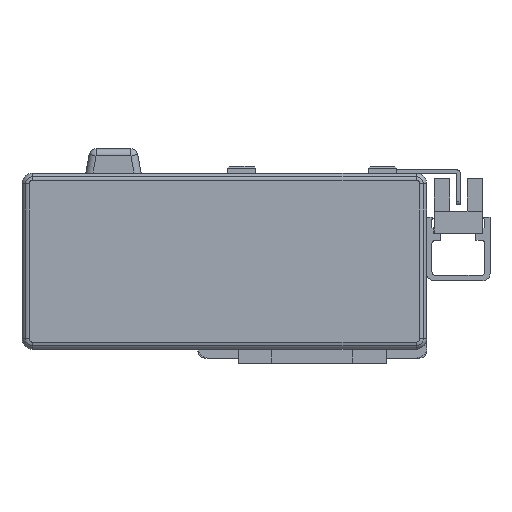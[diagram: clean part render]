
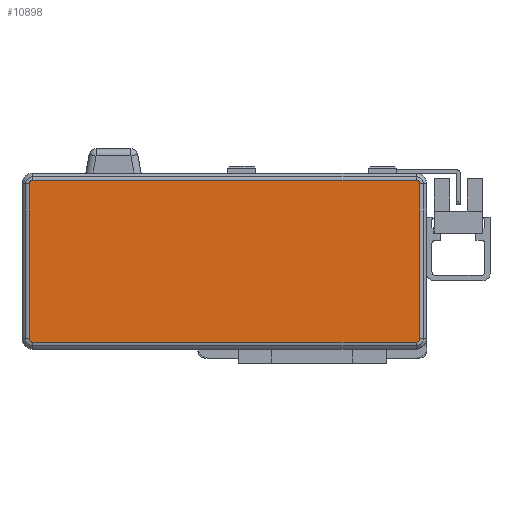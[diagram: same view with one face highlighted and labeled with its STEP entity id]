
A CAD part, left-side view. The second image highlights one B-rep face of the part: STEP entity #10898.
In plain terms, the highlighted planar face has unit normal (-1, 0, 0) as drawn and (0, 0, 1) by its records, which use the part's own axes.
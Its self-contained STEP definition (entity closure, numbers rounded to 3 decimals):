
#34 = PLANE ( 'NONE',  #26108 ) ;
#322 = VERTEX_POINT ( 'NONE', #5072 ) ;
#550 = VERTEX_POINT ( 'NONE', #1722 ) ;
#651 = VERTEX_POINT ( 'NONE', #1197 ) ;
#703 = VERTEX_POINT ( 'NONE', #1391 ) ;
#729 = VERTEX_POINT ( 'NONE', #863 ) ;
#863 = CARTESIAN_POINT ( 'NONE',  ( 54.5, 23., 40. ) ) ;
#924 = VERTEX_POINT ( 'NONE', #25494 ) ;
#1197 = CARTESIAN_POINT ( 'NONE',  ( -54.5, 23., 40. ) ) ;
#1391 = CARTESIAN_POINT ( 'NONE',  ( 55.5, 22., 40. ) ) ;
#1722 = CARTESIAN_POINT ( 'NONE',  ( -55.5, 22., 40. ) ) ;
#2501 = VERTEX_POINT ( 'NONE', #20275 ) ;
#3092 = VERTEX_POINT ( 'NONE', #16050 ) ;
#5016 = CIRCLE ( 'NONE', #18053, 1. ) ;
#5072 = CARTESIAN_POINT ( 'NONE',  ( -55.5, -22., 40. ) ) ;
#5137 = VECTOR ( 'NONE', #20644, 1000. ) ;
#5168 = LINE ( 'NONE', #20866, #5137 ) ;
#5284 = EDGE_LOOP ( 'NONE', ( #16335, #16500, #16749, #16877, #17087, #17351, #18082, #18284 ) ) ;
#5348 = CIRCLE ( 'NONE', #18132, 1. ) ;
#5384 = VECTOR ( 'NONE', #22391, 1000. ) ;
#5497 = CIRCLE ( 'NONE', #18164, 1. ) ;
#5575 = LINE ( 'NONE', #22232, #5384 ) ;
#5657 = VECTOR ( 'NONE', #23913, 1000. ) ;
#5713 = LINE ( 'NONE', #24401, #5657 ) ;
#6022 = VECTOR ( 'NONE', #26008, 1000. ) ;
#6074 = LINE ( 'NONE', #26734, #6022 ) ;
#6105 = CIRCLE ( 'NONE', #18202, 1. ) ;
#7618 = FACE_OUTER_BOUND ( 'NONE', #5284, .T. ) ;
#10898 = ADVANCED_FACE ( 'NONE', ( #7618 ), #34, .F. ) ;
#16050 = CARTESIAN_POINT ( 'NONE',  ( 54.5, -23., 40. ) ) ;
#16335 = ORIENTED_EDGE ( 'NONE', *, *, #19039, .T. ) ;
#16500 = ORIENTED_EDGE ( 'NONE', *, *, #19046, .T. ) ;
#16749 = ORIENTED_EDGE ( 'NONE', *, *, #19126, .T. ) ;
#16877 = ORIENTED_EDGE ( 'NONE', *, *, #19178, .T. ) ;
#17087 = ORIENTED_EDGE ( 'NONE', *, *, #19217, .T. ) ;
#17351 = ORIENTED_EDGE ( 'NONE', *, *, #19222, .T. ) ;
#18053 = AXIS2_PLACEMENT_3D ( 'NONE', #18834, #18797, #18775 ) ;
#18082 = ORIENTED_EDGE ( 'NONE', *, *, #19254, .T. ) ;
#18132 = AXIS2_PLACEMENT_3D ( 'NONE', #21800, #21754, #21675 ) ;
#18164 = AXIS2_PLACEMENT_3D ( 'NONE', #22772, #22728, #22710 ) ;
#18202 = AXIS2_PLACEMENT_3D ( 'NONE', #25705, #25527, #25496 ) ;
#18284 = ORIENTED_EDGE ( 'NONE', *, *, #19304, .T. ) ;
#18775 = DIRECTION ( 'NONE',  ( -1., 0., 0. ) ) ;
#18797 = DIRECTION ( 'NONE',  ( 0., 0., 1. ) ) ;
#18834 = CARTESIAN_POINT ( 'NONE',  ( -54.5, -22., 40. ) ) ;
#19039 = EDGE_CURVE ( 'NONE', #2501, #3092, #6074, .T. ) ;
#19046 = EDGE_CURVE ( 'NONE', #3092, #924, #6105, .T. ) ;
#19126 = EDGE_CURVE ( 'NONE', #924, #703, #5713, .T. ) ;
#19178 = EDGE_CURVE ( 'NONE', #703, #729, #5497, .T. ) ;
#19217 = EDGE_CURVE ( 'NONE', #729, #651, #5575, .T. ) ;
#19222 = EDGE_CURVE ( 'NONE', #651, #550, #5348, .T. ) ;
#19254 = EDGE_CURVE ( 'NONE', #550, #322, #5168, .T. ) ;
#19304 = EDGE_CURVE ( 'NONE', #322, #2501, #5016, .T. ) ;
#20275 = CARTESIAN_POINT ( 'NONE',  ( -54.5, -23., 40. ) ) ;
#20644 = DIRECTION ( 'NONE',  ( 0., -1., 0. ) ) ;
#20866 = CARTESIAN_POINT ( 'NONE',  ( -55.5, 0., 40. ) ) ;
#21675 = DIRECTION ( 'NONE',  ( -1., 0., 0. ) ) ;
#21754 = DIRECTION ( 'NONE',  ( 0., 0., 1. ) ) ;
#21800 = CARTESIAN_POINT ( 'NONE',  ( -54.5, 22., 40. ) ) ;
#22232 = CARTESIAN_POINT ( 'NONE',  ( 0., 23., 40. ) ) ;
#22391 = DIRECTION ( 'NONE',  ( -1., 0., 0. ) ) ;
#22710 = DIRECTION ( 'NONE',  ( -1., 0., 0. ) ) ;
#22728 = DIRECTION ( 'NONE',  ( 0., 0., 1. ) ) ;
#22772 = CARTESIAN_POINT ( 'NONE',  ( 54.5, 22., 40. ) ) ;
#23913 = DIRECTION ( 'NONE',  ( 0., 1., 0. ) ) ;
#24401 = CARTESIAN_POINT ( 'NONE',  ( 55.5, 0., 40. ) ) ;
#25494 = CARTESIAN_POINT ( 'NONE',  ( 55.5, -22., 40. ) ) ;
#25496 = DIRECTION ( 'NONE',  ( -1., 0., 0. ) ) ;
#25527 = DIRECTION ( 'NONE',  ( 0., 0., 1. ) ) ;
#25705 = CARTESIAN_POINT ( 'NONE',  ( 54.5, -22., 40. ) ) ;
#26008 = DIRECTION ( 'NONE',  ( 1., 0., 0. ) ) ;
#26108 = AXIS2_PLACEMENT_3D ( 'NONE', #27177, #26725, #26628 ) ;
#26628 = DIRECTION ( 'NONE',  ( -1., 0., 0. ) ) ;
#26725 = DIRECTION ( 'NONE',  ( 0., 0., -1. ) ) ;
#26734 = CARTESIAN_POINT ( 'NONE',  ( 0., -23., 40. ) ) ;
#27177 = CARTESIAN_POINT ( 'NONE',  ( 0., 0., 40. ) ) ;
